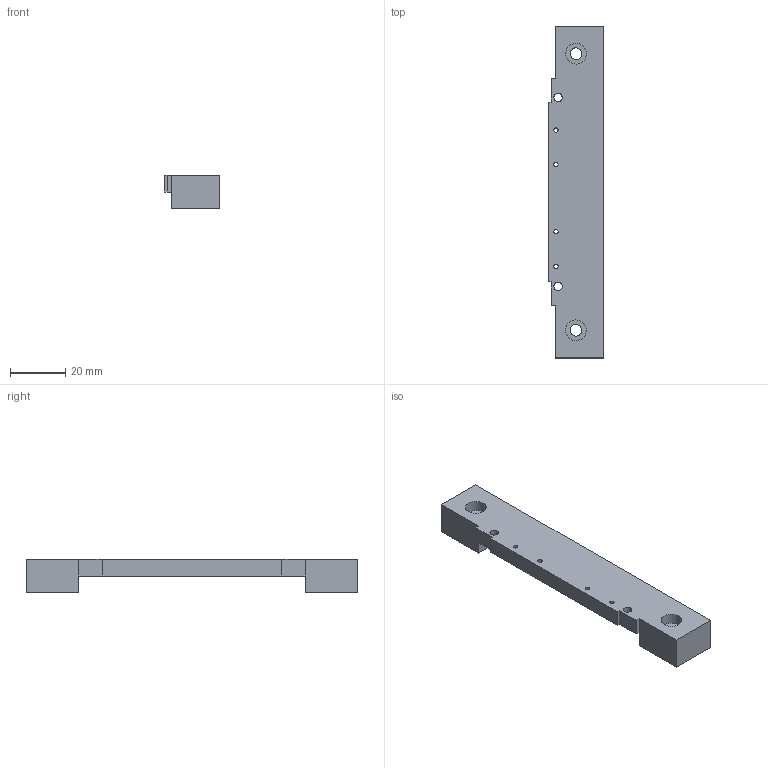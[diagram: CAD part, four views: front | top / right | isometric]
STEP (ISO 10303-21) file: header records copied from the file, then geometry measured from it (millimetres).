
FILE_DESCRIPTION(('CATIA V5 STEP Exchange'),'2;1');
FILE_NAME('D:\CATIA\ATLAS\Atlas_Maarten\atlas_upgrade_maarten\Ass.Module\STP\Presseur_Hybride_Flex.stp','2010-09-02T14:41:19+00:00',('none'),('none'),'CATIA Version 5 Release 18 SP 4 (IN-10)','CATIA V5 STEP AP203','none');
FILE_SCHEMA(('CONFIG_CONTROL_DESIGN'));
Length unit declared in the file: millimetre
Products named in the file (1): Presseur_Hybride_Flex
Bounding box: 20 x 120 x 12 mm (x, y, z)
Volume: 17011.8 mm3; surface area: 7663.7 mm2
Topology: 1 solids, 1 shells, 40 faces, 106 edges, 70 vertices
Faces by surface type: plane 20, cylinder 20
Entity records: 1208 total; most frequent: ORIENTED_EDGE 212, CARTESIAN_POINT 201, DIRECTION 154, EDGE_CURVE 106, VERTEX_POINT 70, VECTOR 66, LINE 66, AXIS2_PLACEMENT_3D 65
